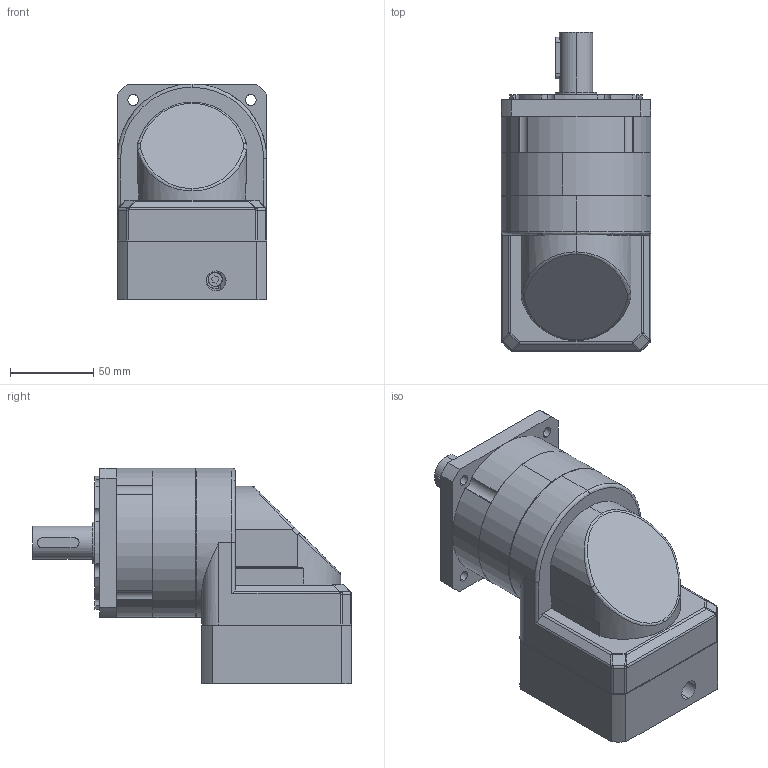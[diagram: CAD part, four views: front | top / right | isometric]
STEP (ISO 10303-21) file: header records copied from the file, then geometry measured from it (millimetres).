
FILE_DESCRIPTION (( 'STEP AP203' ), '1' );
FILE_NAME ('PVFA090-L1-14-73-98.44.STEP', '2026-01-06T03:51:09', ( 'Windows User' ), ( 'P R C' ), 'SwSTEP 2.0', 'SolidWorks 2016', '' );
FILE_SCHEMA (( 'CONFIG_CONTROL_DESIGN' ));
Length unit declared in the file: millimetre
Products named in the file (9):  PVFA90 眊极_揤翉陔眊极;  PVFA90 κｳﾝﾈｦ-ﾓﾅｻｯ_ﾒｻｼｶﾄﾚｳﾝﾈｦ;  PVFA90 奻屳唳_梓袧;  PVFA90-蟀諉啣-73-M5-98.4;  PVFA90-薊粣ん-14; M5 x 20; 粣創-3206A 30x62x23.8_2; 邧埴瑩 6x6x25; PVFA090-L1-14-73-98.44
Assembly tree (8 placements, depth 2):
  PVFA090-L1-14-73-98.44
     PVFA90 眊极_揤翉陔眊极
     PVFA90 κｳﾝﾈｦ-ﾓﾅｻｯ_ﾒｻｼｶﾄﾚｳﾝﾈｦ
     PVFA90 奻屳唳_梓袧
     PVFA90-蟀諉啣-73-M5-98.4
     PVFA90-薊粣ん-14
    M5 x 20
    粣創-3206A 30x62x23.8_2
    邧埴瑩 6x6x25
Bounding box: 90 x 192 x 130 mm (x, y, z)
Volume: 1039686.4 mm3; surface area: 188133.5 mm2
Topology: 8 solids, 8 shells, 1286 faces, 3505 edges, 2293 vertices
Faces by surface type: plane 657, bspline 324, cylinder 275, cone 30
Entity records: 52490 total; most frequent: CARTESIAN_POINT 20820, ORIENTED_EDGE 6970, DIRECTION 5488, EDGE_CURVE 3485, VERTEX_POINT 2293, VECTOR 1992, LINE 1992, AXIS2_PLACEMENT_3D 1748
